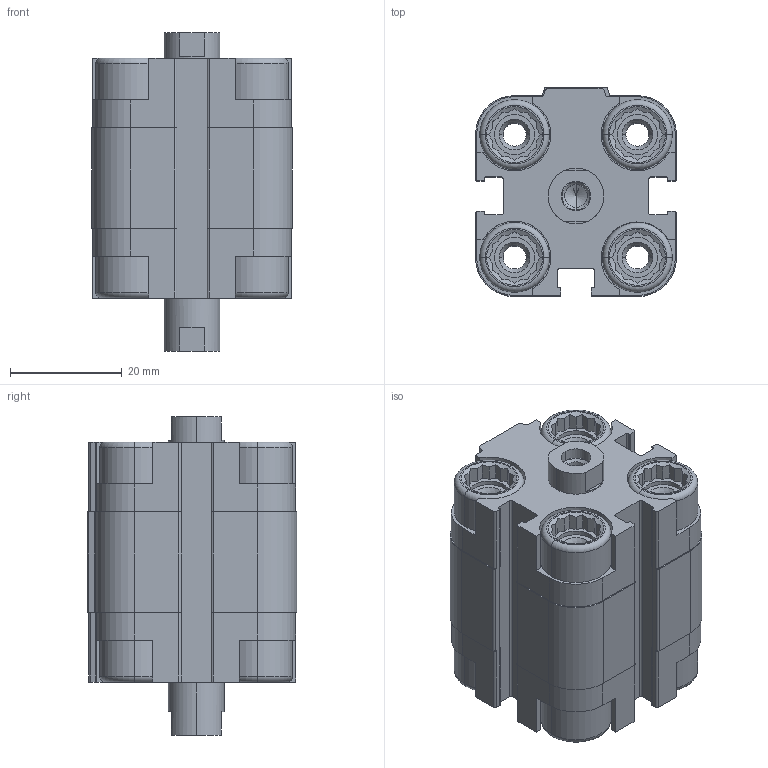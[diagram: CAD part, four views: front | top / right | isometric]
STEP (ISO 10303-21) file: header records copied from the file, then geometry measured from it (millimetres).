
FILE_DESCRIPTION (( 'STEP AP203' ), '1' );
FILE_NAME ('CDVU20-5F-P.STEP', '2020-07-24T18:06:32', ( '' ), ( '' ), 'SwSTEP 2.0', 'SolidWorks 2019', '' );
FILE_SCHEMA (( 'CONFIG_CONTROL_DESIGN' ));
Length unit declared in the file: millimetre
Products named in the file (1): CDVU20-5F-P
Bounding box: 36 x 37.5 x 57 mm (x, y, z)
Volume: 43390.4 mm3; surface area: 20977.3 mm2
Topology: 2 solids, 2 shells, 606 faces, 1598 edges, 1032 vertices
Faces by surface type: plane 358, cylinder 184, cone 48, torus 16
Entity records: 18877 total; most frequent: CARTESIAN_POINT 3805, ORIENTED_EDGE 3180, DIRECTION 3060, EDGE_CURVE 1590, AXIS2_PLACEMENT_3D 1055, VERTEX_POINT 1032, LINE 950, VECTOR 950
